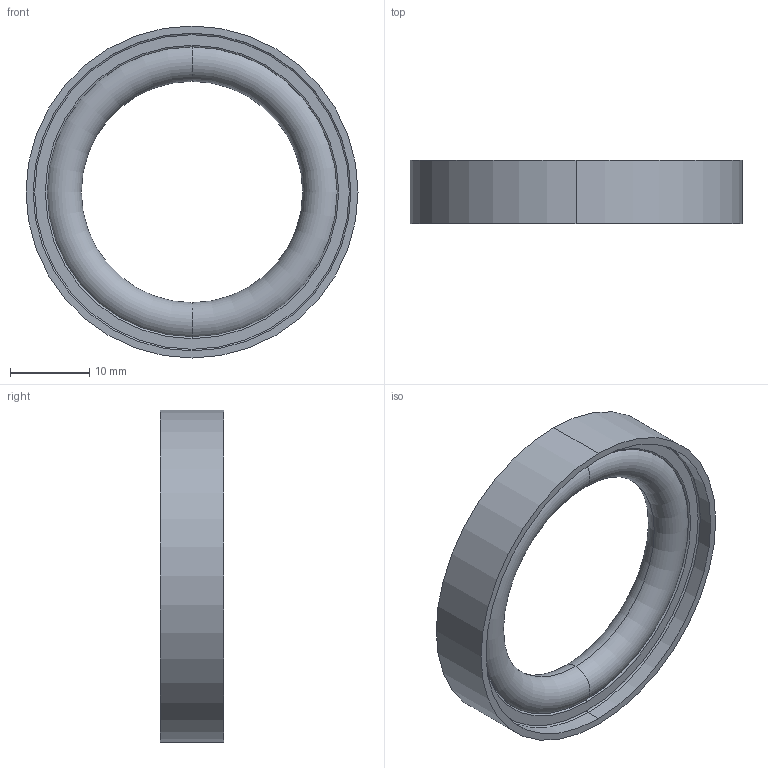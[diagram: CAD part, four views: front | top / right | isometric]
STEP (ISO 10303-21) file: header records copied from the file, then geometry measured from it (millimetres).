
FILE_DESCRIPTION (( 'STEP AP214' ), '1' );
FILE_NAME ('W3AZR25.STEP', '2019-11-14T06:13:20', ( '' ), ( '' ), 'SwSTEP 2.0', 'SolidWorks 2018', '' );
FILE_SCHEMA (( 'AUTOMOTIVE_DESIGN' ));
Length unit declared in the file: millimetre
Products named in the file (3): W3AZR25; W3ZA25_Ring
Assembly tree (2 placements, depth 2):
  W3AZR25
    W3AZR25
    W3ZA25_Ring
Bounding box: 42 x 8 x 42 mm (x, y, z)
Volume: 3613.9 mm3; surface area: 4309.3 mm2
Topology: 2 solids, 2 shells, 28 faces, 56 edges, 32 vertices
Faces by surface type: torus 18, cylinder 6, plane 4
Entity records: 860 total; most frequent: DIRECTION 172, CARTESIAN_POINT 121, ORIENTED_EDGE 112, AXIS2_PLACEMENT_3D 83, EDGE_CURVE 56, CIRCLE 50, EDGE_LOOP 32, VERTEX_POINT 32
